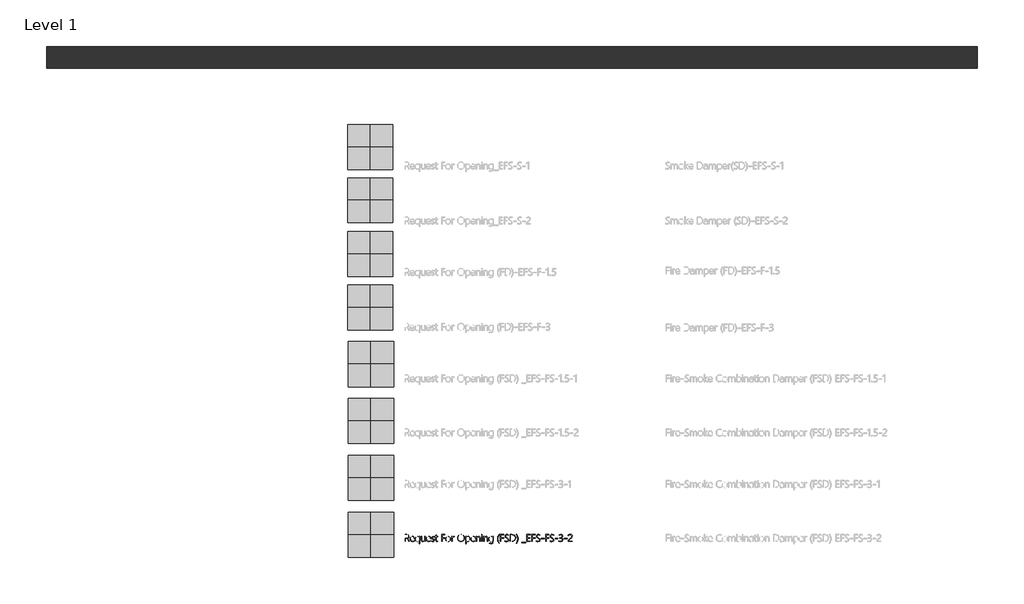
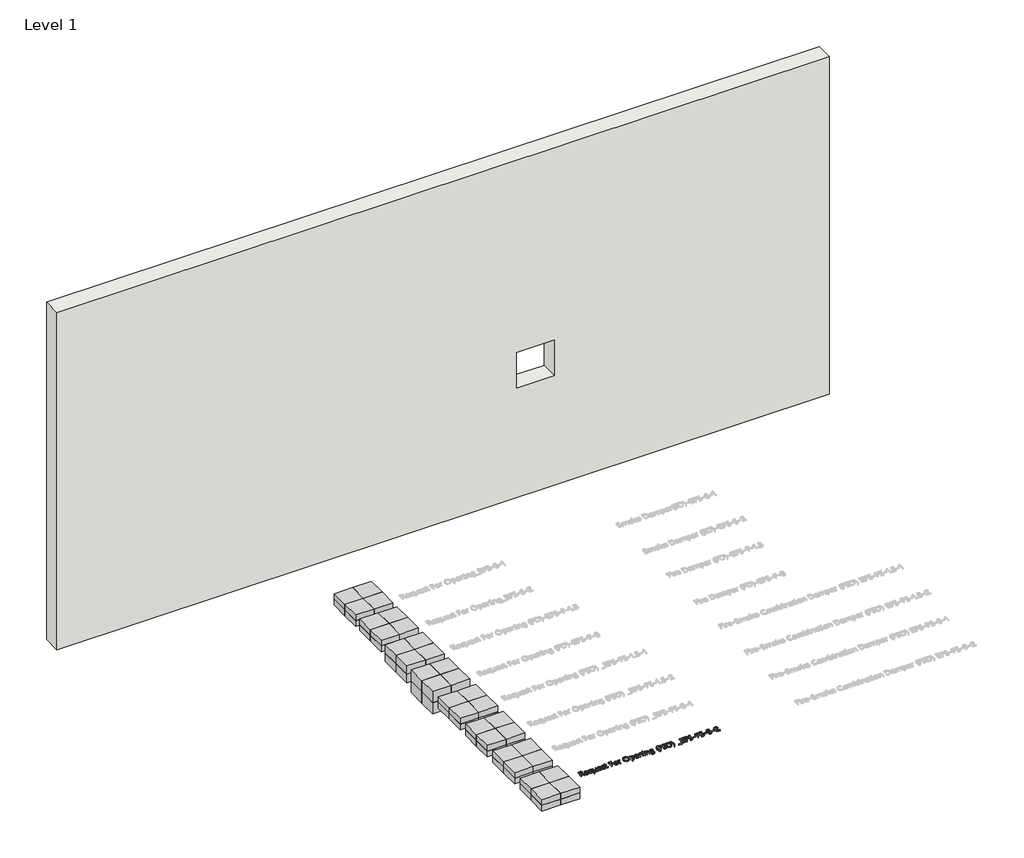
# One storey, part 1 of 13: 9 proxies, 1 wall.
"""IFC4 building model written with IfcOpenShell, lengths in millimetres."""

from ifc_helpers import new_model, si_unit, frame, origin, origin_with_axes, place, context, project, spatial, polyline, outline, extrude, transform, mapped, element, save
from components import mechanical_equipment_000f9c02, efs_fire_damper_1758a5b7, efs_fire_damper_2e3d3fd8, efs_smoke_damper_6f20081f

model = new_model("IFC4")

# Units and contexts
model_context = context("Model", 3, world=origin())
ifc_project = project(units=[si_unit("LENGTHUNIT", "METRE", prefix="MILLI")], contexts=[model_context])

# Site, building, storey
site = spatial("IfcSite", under=ifc_project)
building = spatial("IfcBuilding", under=site)
storey = spatial("IfcBuildingStorey", under=building, Name="Level 1", Elevation=0.0)

# Proxies
placement = place(None, origin())
mechanical_equipment_shape = mechanical_equipment_000f9c02(model_context)
element("IfcBuildingElementProxy", 1, Name="EFS_Fire & Smoke Combination Damper  : Fire Smoke Damper (FSD) _EFS-FS-1.5-1", ObjectType="EFS_Fire & Smoke Combination Damper  : Fire Smoke Damper (FSD) _EFS-FS-1.5-1", at=placement, inside=storey, context=model_context, shape_type="MappedRepresentation", body=[
    mapped(mechanical_equipment_shape, transform((-15623.4818522, 6476.2134931, 0.0), x_axis=(1.0, 0.0, 0.0), y_axis=(0.0, 1.0, 0.0), z_axis=(0.0, 0.0, 1.0))),
])
element("IfcBuildingElementProxy", 2, Name="EFS_Fire & Smoke Combination Damper  : Fire Smoke Damper (FSD)_EFS-FS-1.5-2", ObjectType="EFS_Fire & Smoke Combination Damper  : Fire Smoke Damper (FSD)_EFS-FS-1.5-2", at=placement, inside=storey, context=model_context, shape_type="MappedRepresentation", body=[
    mapped(mechanical_equipment_shape, transform((-15623.4818522, 5670.9639308, 0.0), x_axis=(1.0, 0.0, 0.0), y_axis=(0.0, 1.0, 0.0), z_axis=(0.0, 0.0, 1.0))),
])
element("IfcBuildingElementProxy", 3, Name="EFS_Fire & Smoke Combination Damper  : Fire Smoke Damper (FSD)_EFS-FS-3-1", ObjectType="EFS_Fire & Smoke Combination Damper  : Fire Smoke Damper (FSD)_EFS-FS-3-1", at=placement, inside=storey, context=model_context, shape_type="MappedRepresentation", body=[
    mapped(mechanical_equipment_shape, transform((-15623.4818522, 4862.7143684, 0.0), x_axis=(1.0, 0.0, 0.0), y_axis=(0.0, 1.0, 0.0), z_axis=(0.0, 0.0, 1.0))),
])
element("IfcBuildingElementProxy", 4, Name="EFS_Fire & Smoke Combination Damper  : Fire Smoke Damper (FSD)_EFS-FS-3-2", ObjectType="EFS_Fire & Smoke Combination Damper  : Fire Smoke Damper (FSD)_EFS-FS-3-2", at=placement, inside=storey, context=model_context, shape_type="MappedRepresentation", body=[
    mapped(mechanical_equipment_shape, transform((-15623.4818522, 4054.464806, 0.0), x_axis=(1.0, 0.0, 0.0), y_axis=(0.0, 1.0, 0.0), z_axis=(0.0, 0.0, 1.0))),
])
element("IfcBuildingElementProxy", 5, Name="24\" Arial", ObjectType="24\" Arial", at=placement, inside=storey, context=model_context, shape_type="SweptSolid", body=[
    extrude(outline(polyline([(-15088.6743908, 3959.1777679), (-15102.0044774, 3988.4563509), (-15110.2316402, 4000.6408831), (-15120.5713837, 4003.7502449), (-15132.9790759, 4003.7502449), (-15132.9790759, 3959.1777679), (-15139.8821565, 3959.1777679), (-15139.8821565, 4059.1831719), (-15112.121061, 4059.1831719), (-15100.2973039, 4057.3941731), (-15091.307678, 4052.0271767), (-15085.6282578, 4043.7367853), (-15083.7351177, 4033.1776012), (-15085.2860792, 4023.2432649), (-15089.9389638, 4015.1016467), (-15097.3813475, 4009.1469959), (-15107.3008065, 4005.7735616), (-15095.7262447, 3991.0450061), (-15080.8786706, 3959.1777679), (-15088.6743908, 3959.1777679)]), holes=[polyline([(-15132.9790759, 4052.8454298), (-15132.9790759, 4010.0284776), (-15115.7511292, 4010.0284776), (-15105.4783337, 4011.5273685), (-15097.5710334, 4016.0240411), (-15092.527619, 4023.1316849), (-15090.8464808, 4032.4634894), (-15092.3639684, 4040.9807601), (-15096.916431, 4047.4300821), (-15104.2955861, 4051.4915929), (-15114.293151, 4052.8454298), (-15132.9790759, 4052.8454298)])]), origin_with_axes(), (0.0, 0.0, 1.0), 20.0),
    extrude(outline(polyline([(-15059.7528637, 3994.615565), (-15058.0531289, 3981.493761), (-15052.9539245, 3971.5854601), (-15044.8941316, 3965.359298), (-15034.3126315, 3963.2839106), (-15022.4405231, 3965.5006326), (-15010.8659614, 3972.1507985), (-15010.8659614, 3965.3072273), (-15022.6041738, 3959.3934891), (-15035.6218364, 3957.4222431), (-15048.1039153, 3959.8993183), (-15057.9378296, 3967.330544), (-15064.3202036, 3979.277039), (-15066.4476617, 3995.2999221), (-15064.223501, 4009.6937377), (-15057.551019, 4021.632794), (-15047.3228555, 4029.6665516), (-15034.4316501, 4032.3444708), (-15022.6748411, 4030.0050108), (-15014.0050777, 4022.986631), (-15008.6603974, 4011.9290564), (-15006.8788373, 3997.4720121), (-15006.8788373, 3994.615565), (-15059.7528637, 3994.615565)]), holes=[polyline([(-15013.5736352, 4000.4772325), (-15015.284528, 4011.4269465), (-15019.5245667, 4019.639232), (-15026.07803, 4024.7719104), (-15034.7291967, 4026.4828032), (-15043.8973506, 4024.7979457), (-15051.347173, 4019.7433733), (-15056.676976, 4011.5571231), (-15059.4850718, 4000.4772325), (-15013.5736352, 4000.4772325)])]), origin_with_axes(), (0.0, 0.0, 1.0), 20.0),
    extrude(outline(polyline([(-14938.2348423, 3926.3286259), (-14938.2348423, 3972.2995718), (-14948.946519, 3961.1415753), (-14964.3891863, 3957.4222431), (-14976.4695772, 3959.8807216), (-14985.9315583, 3967.2561574), (-14992.0461405, 3978.8046838), (-14994.0843345, 3993.7824346), (-14991.7671906, 4009.7048957), (-14984.8157587, 4021.9452179), (-14974.2863292, 4029.7446576), (-14961.2351926, 4032.3444708), (-14947.5629274, 4029.0119491), (-14938.5026342, 4019.0143842), (-14938.2348423, 4030.588946), (-14931.8078363, 4030.588946), (-14931.8078363, 3926.3286259), (-14938.2348423, 3926.3286259)]), holes=[polyline([(-14938.2348423, 4001.9947201), (-14939.7858038, 4011.7319317), (-14944.4386884, 4019.5797227), (-14951.8438788, 4024.7570331), (-14961.6517578, 4026.4828032), (-14971.8055347, 4024.3479065), (-14980.0698908, 4017.9432165), (-14985.5596251, 4007.7001756), (-14987.3895366, 3994.0502265), (-14985.7604691, 3981.2222498), (-14980.8732666, 3971.4813188), (-14973.3899702, 3965.3332626), (-14963.9726211, 3963.2839106), (-14952.9448011, 3965.203086), (-14944.8552536, 3970.9606122), (-14939.8899451, 3979.4927603), (-14938.2348423, 3989.7358012), (-14938.2348423, 4001.9947201)])]), origin_with_axes(), (0.0, 0.0, 1.0), 20.0),
    extrude(outline(polyline([(-14861.7951271, 3959.1777679), (-14861.7951271, 3972.1507985), (-14871.5620934, 3961.1043819), (-14885.0930239, 3957.4222431), (-14896.1710549, 3959.4158051), (-14904.0839341, 3965.3964913), (-14908.8316616, 3975.3643016), (-14910.4142375, 3989.3192359), (-14910.4142375, 4030.588946), (-14903.9277221, 4030.588946), (-14903.9277221, 3990.8962328), (-14902.7338165, 3978.3881186), (-14899.1520996, 3969.8448126), (-14893.0040435, 3964.9241361), (-14884.1111202, 3963.2839106), (-14875.0917397, 3965.113822), (-14867.9692185, 3970.6035564), (-14863.3386499, 3979.1505817), (-14861.7951271, 3990.1523664), (-14861.7951271, 4030.588946), (-14855.3978757, 4030.588946), (-14855.3978757, 3959.1777679), (-14861.7951271, 3959.1777679)])), origin_with_axes(), (0.0, 0.0, 1.0), 20.0),
    extrude(outline(polyline([(-14831.2370938, 3994.615565), (-14829.537359, 3981.493761), (-14824.4381545, 3971.5854601), (-14816.3783617, 3965.359298), (-14805.7968616, 3963.2839106), (-14793.9247532, 3965.5006326), (-14782.3501914, 3972.1507985), (-14782.3501914, 3965.3072273), (-14794.0884038, 3959.3934891), (-14807.1060665, 3957.4222431), (-14819.5881453, 3959.8993183), (-14829.4220597, 3967.330544), (-14835.8044337, 3979.277039), (-14837.9318917, 3995.2999221), (-14835.7077311, 4009.6937377), (-14829.0352491, 4021.632794), (-14818.8070856, 4029.6665516), (-14805.9158802, 4032.3444708), (-14794.1590711, 4030.0050108), (-14785.4893078, 4022.986631), (-14780.1446274, 4011.9290564), (-14778.3630673, 3997.4720121), (-14778.3630673, 3994.615565), (-14831.2370938, 3994.615565)]), holes=[polyline([(-14785.0578653, 4000.4772325), (-14786.7687581, 4011.4269465), (-14791.0087968, 4019.639232), (-14797.5622601, 4024.7719104), (-14806.2134268, 4026.4828032), (-14815.3815806, 4024.7979457), (-14822.831403, 4019.7433733), (-14828.161206, 4011.5571231), (-14830.9693018, 4000.4772325), (-14785.0578653, 4000.4772325)])]), origin_with_axes(), (0.0, 0.0, 1.0), 20.0),
    extrude(outline(polyline([(-14764.1105863, 3962.3020069), (-14764.1105863, 3970.0679725), (-14755.318085, 3965.0989447), (-14746.4065651, 3963.2839106), (-14733.798029, 3966.7205735), (-14729.5951836, 3977.0305624), (-14733.2847611, 3985.1089519), (-14745.2758881, 3992.0269098), (-14759.6771424, 4001.265731), (-14763.8130398, 4012.8849247), (-14762.1504983, 4020.7661896), (-14757.1628738, 4026.9737551), (-14740.7531802, 4032.3444708), (-14724.9832117, 4028.5656293), (-14724.9832117, 4021.3054928), (-14741.4375373, 4026.4828032), (-14752.8038165, 4022.8229803), (-14757.1182418, 4013.3014899), (-14754.410568, 4005.0296951), (-14742.419441, 3997.739804), (-14727.080915, 3988.4265962), (-14722.9003856, 3977.0305624), (-14724.4959792, 3969.2608774), (-14729.2827597, 3962.9714867), (-14736.8739167, 3958.809554), (-14746.8826396, 3957.4222431), (-14764.1105863, 3962.3020069)])), origin_with_axes(), (0.0, 0.0, 1.0), 20.0),
    extrude(outline(polyline([(-14676.9294397, 3960.1596716), (-14686.3616662, 3957.779299), (-14698.2337745, 3962.5251668), (-14702.191144, 3976.7627705), (-14702.191144, 4024.7272784), (-14715.0154014, 4024.7272784), (-14715.0154014, 4030.588946), (-14702.191144, 4030.588946), (-14702.191144, 4049.1260976), (-14698.977641, 4050.2567746), (-14695.764138, 4051.2981876), (-14695.764138, 4030.588946), (-14676.9294397, 4030.588946), (-14676.9294397, 4024.7272784), (-14695.764138, 4024.7272784), (-14695.764138, 3977.5959009), (-14693.4283973, 3966.8842242), (-14685.5285358, 3963.5814572), (-14676.9294397, 3966.1403577), (-14676.9294397, 3960.1596716)])), origin_with_axes(), (0.0, 0.0, 1.0), 20.0),
    extrude(outline(polyline([(-14615.0099974, 4052.8454298), (-14615.0099974, 4012.0517943), (-14578.0547127, 4012.0517943), (-14578.0547127, 4005.7735616), (-14615.0099974, 4005.7735616), (-14615.0099974, 3959.1777679), (-14621.9130779, 3959.1777679), (-14621.9130779, 4059.1831719), (-14575.1685109, 4059.1831719), (-14575.1685109, 4052.8454298), (-14615.0099974, 4052.8454298)])), origin_with_axes(), (0.0, 0.0, 1.0), 20.0),
    extrude(outline(polyline([(-14527.9776241, 3957.4222431), (-14541.9697518, 3959.9960209), (-14552.7037445, 3967.7173546), (-14559.5324384, 3979.5522696), (-14561.8086697, 3994.4667917), (-14559.4282971, 4010.3223048), (-14552.2871793, 4022.3022738), (-14541.2630787, 4029.8339215), (-14527.2337576, 4032.3444708), (-14513.5503345, 4029.8487989), (-14503.087853, 4022.3617832), (-14496.4488451, 4010.4636395), (-14494.2358424, 3994.7345836), (-14496.4934771, 3979.6564109), (-14503.266381, 3967.7471092), (-14513.959461, 3960.0034596), (-14527.9776241, 3957.4222431)]), holes=[polyline([(-14527.5015495, 4026.4828032), (-14538.8380741, 4024.3553452), (-14547.615698, 4017.9729712), (-14553.2393283, 4007.8043169), (-14555.1138717, 3994.3180184), (-14553.2839603, 3981.6797276), (-14547.794226, 3971.7937427), (-14539.128182, 3965.4113686), (-14527.7693415, 3963.2839106), (-14516.3621496, 3965.3778946), (-14507.9081076, 3971.6598467), (-14502.6750072, 3981.6536923), (-14500.9306404, 3994.8833569), (-14502.6638492, 4008.3733748), (-14507.8634756, 4018.3151497), (-14516.2394117, 4024.4408898), (-14527.5015495, 4026.4828032)])]), origin_with_axes(), (0.0, 0.0, 1.0), 20.0),
    extrude(outline(polyline([(-14442.9983221, 4023.894148), (-14450.5262505, 4026.1852566), (-14458.2736194, 4024.005728), (-14464.6745901, 4017.467142), (-14468.9704188, 4006.9191159), (-14470.4023617, 3992.7112669), (-14470.4023617, 3959.1777679), (-14476.6805945, 3959.1777679), (-14476.6805945, 4030.588946), (-14470.4023617, 4030.588946), (-14470.4023617, 4014.7594681), (-14462.3686042, 4027.4498296), (-14450.1096853, 4031.9874149), (-14442.9983221, 4030.7377193), (-14442.9983221, 4023.894148)])), origin_with_axes(), (0.0, 0.0, 1.0), 20.0),
    extrude(outline(polyline([(-14346.5337224, 3957.4222431), (-14365.5729839, 3960.9444506), (-14380.320136, 3971.5110734), (-14389.7709591, 3987.7087651), (-14392.9212335, 4008.1241795), (-14389.6854145, 4029.6665516), (-14379.9779574, 4046.4481784), (-14364.6766248, 4057.2491191), (-14344.6591789, 4060.8494327), (-14326.3563452, 4057.3904537), (-14311.9141783, 4047.0135169), (-14302.5303032, 4031.0203885), (-14299.4023448, 4010.7128347), (-14302.6084092, 3988.5418955), (-14312.2266022, 3971.6598467), (-14327.2155109, 3960.981644), (-14346.5337224, 3957.4222431)]), holes=[polyline([(-14345.8196106, 4054.5711999), (-14361.712317, 4051.4172062), (-14374.5179778, 4041.9552251), (-14382.9645812, 4027.3828816), (-14385.7801157, 4008.8978006), (-14383.1133545, 3990.3532103), (-14375.1130709, 3976.018904), (-14362.6719047, 3966.8470308), (-14346.6824956, 3963.7897398), (-14330.0570807, 3966.8135568), (-14317.3146486, 3975.8850081), (-14309.2139431, 3990.3643683), (-14306.513708, 4009.6119124), (-14309.1544338, 4028.4726459), (-14317.0766114, 4042.6842143), (-14329.5438129, 4051.5994535), (-14345.8196106, 4054.5711999)])]), origin_with_axes(), (0.0, 0.0, 1.0), 20.0),
    extrude(outline(polyline([(-14273.843094, 3971.8830066), (-14274.1108859, 3926.3286259), (-14280.5378919, 3926.3286259), (-14280.5378919, 4030.588946), (-14274.1108859, 4030.588946), (-14274.1108859, 4015.8603905), (-14262.848748, 4028.0449227), (-14247.1234115, 4032.3444708), (-14235.0169852, 4029.9975721), (-14225.8934633, 4022.9568763), (-14220.1694111, 4011.891863), (-14218.2613937, 3997.4720121), (-14220.448361, 3981.2520044), (-14227.009263, 3968.4760983), (-14237.1630399, 3960.1857069), (-14250.1286319, 3957.4222431), (-14264.0761276, 3961.037434), (-14273.843094, 3971.8830066)]), holes=[polyline([(-14274.1108859, 3998.4539158), (-14274.1108859, 3989.4382546), (-14272.4185897, 3979.455567), (-14267.3417013, 3970.9903669), (-14259.512507, 3965.2105247), (-14249.5632934, 3963.2839106), (-14239.6438345, 3965.6308092), (-14231.7848855, 3972.6715051), (-14226.6633651, 3983.5282357), (-14224.9561916, 3997.3232388), (-14226.5257498, 4009.3366818), (-14231.2344244, 4018.597819), (-14238.5540701, 4024.5115572), (-14247.9565419, 4026.4828032), (-14259.0364325, 4024.3888192), (-14267.282192, 4018.1068671), (-14272.4037124, 4009.0056612), (-14274.1108859, 3998.4539158)])]), origin_with_axes(), (0.0, 0.0, 1.0), 20.0),
    extrude(outline(polyline([(-14199.0101303, 3994.615565), (-14197.3103954, 3981.493761), (-14192.211191, 3971.5854601), (-14184.1513981, 3965.359298), (-14173.5698981, 3963.2839106), (-14161.6977897, 3965.5006326), (-14150.1232279, 3972.1507985), (-14150.1232279, 3965.3072273), (-14161.8614403, 3959.3934891), (-14174.879103, 3957.4222431), (-14187.3611818, 3959.8993183), (-14197.1950961, 3967.330544), (-14203.5774702, 3979.277039), (-14205.7049282, 3995.2999221), (-14203.4807675, 4009.6937377), (-14196.8082856, 4021.632794), (-14186.5801221, 4029.6665516), (-14173.6889167, 4032.3444708), (-14161.9321076, 4030.0050108), (-14153.2623443, 4022.986631), (-14147.9176639, 4011.9290564), (-14146.1361038, 3997.4720121), (-14146.1361038, 3994.615565), (-14199.0101303, 3994.615565)]), holes=[polyline([(-14152.8309017, 4000.4772325), (-14154.5417946, 4011.4269465), (-14158.7818333, 4019.639232), (-14165.3352966, 4024.7719104), (-14173.9864633, 4026.4828032), (-14183.1546171, 4024.7979457), (-14190.6044395, 4019.7433733), (-14195.9342425, 4011.5571231), (-14198.7423383, 4000.4772325), (-14152.8309017, 4000.4772325)])]), origin_with_axes(), (0.0, 0.0, 1.0), 20.0),
    extrude(outline(polyline([(-14079.6344442, 3959.1777679), (-14079.6344442, 4000.7450244), (-14084.2761708, 4020.0483585), (-14090.078329, 4024.874192), (-14098.2013505, 4026.4828032), (-14107.6001029, 4024.5896631), (-14115.146628, 4018.9102429), (-14120.1119364, 4010.4413235), (-14121.7670393, 4000.179686), (-14121.7670393, 3959.1777679), (-14128.1940453, 3959.1777679), (-14128.1940453, 4030.588946), (-14121.7670393, 4030.588946), (-14121.7670393, 4017.6159153), (-14111.4793664, 4028.6623319), (-14097.0706735, 4032.3444708), (-14086.8573873, 4030.4178567), (-14079.3666523, 4024.6380145), (-14074.7695577, 4015.2801747), (-14073.2371928, 4002.6195679), (-14073.2371928, 3959.1777679), (-14079.6344442, 3959.1777679)])), origin_with_axes(), (0.0, 0.0, 1.0), 20.0),
    extrude(outline(polyline([(-14048.8681283, 4048.5905138), (-14052.5577058, 4050.1228786), (-14054.1644573, 4054.0356161), (-14052.5279512, 4057.7549483), (-14048.8681283, 4059.1831719), (-14045.0595321, 4057.784703), (-14043.4230259, 4054.0356161), (-14045.0297775, 4050.1972653), (-14048.8681283, 4048.5905138)])), origin_with_axes(), (0.0, 0.0, 1.0), 20.0),
    extrude(outline(polyline([(-14052.022122, 3959.1777679), (-14052.022122, 4030.588946), (-14045.595116, 4030.588946), (-14045.595116, 3959.1777679), (-14052.022122, 3959.1777679)])), origin_with_axes(), (0.0, 0.0, 1.0), 20.0),
    extrude(outline(polyline([(-13974.8980496, 3959.1777679), (-13974.8980496, 4000.7450244), (-13979.5397762, 4020.0483585), (-13985.3419344, 4024.874192), (-13993.4649559, 4026.4828032), (-14002.8637084, 4024.5896631), (-14010.4102334, 4018.9102429), (-14015.3755419, 4010.4413235), (-14017.0306447, 4000.179686), (-14017.0306447, 3959.1777679), (-14023.4576507, 3959.1777679), (-14023.4576507, 4030.588946), (-14017.0306447, 4030.588946), (-14017.0306447, 4017.6159153), (-14006.7429719, 4028.6623319), (-13992.3342789, 4032.3444708), (-13982.1209927, 4030.4178567), (-13974.6302577, 4024.6380145), (-13970.0331631, 4015.2801747), (-13968.5007983, 4002.6195679), (-13968.5007983, 3959.1777679), (-13974.8980496, 3959.1777679)])), origin_with_axes(), (0.0, 0.0, 1.0), 20.0),
    extrude(outline(polyline([(-13890.1567849, 3964.4740969), (-13892.3549103, 3947.0304289), (-13898.9492862, 3934.9872313), (-13910.1779501, 3927.9800094), (-13926.2789392, 3925.6442688), (-13947.5535193, 3931.0596165), (-13947.5535193, 3937.7544144), (-13926.1301659, 3931.5059363), (-13913.2036269, 3933.4585857), (-13903.9703847, 3939.3165339), (-13898.4304394, 3949.079781), (-13896.583791, 3962.7483268), (-13896.583791, 3972.0020253), (-13907.5111889, 3961.0671886), (-13922.5893617, 3957.4222431), (-13934.5581727, 3959.8137737), (-13944.1019791, 3966.9883655), (-13950.3504571, 3978.4327506), (-13952.4332832, 3993.6336613), (-13950.1830872, 4009.1469959), (-13943.4324993, 4021.5286527), (-13933.0072111, 4029.6405163), (-13919.7329145, 4032.3444708), (-13906.1275974, 4029.0788971), (-13896.8515829, 4019.2821761), (-13896.583791, 4030.588946), (-13890.1567849, 4030.588946), (-13890.1567849, 3964.4740969)]), holes=[polyline([(-13896.583791, 4003.1849064), (-13898.1793845, 4012.0294783), (-13902.966165, 4019.5797227), (-13910.3118461, 4024.7570331), (-13919.5841412, 4026.4828032), (-13930.217712, 4024.2660812), (-13938.5527354, 4017.6159153), (-13943.9420478, 4007.3282424), (-13945.7384852, 3994.1989998), (-13944.0908211, 3981.1664598), (-13939.1478286, 3971.4069321), (-13931.5046009, 3965.314666), (-13921.7562312, 3963.2839106), (-13911.4127684, 3965.1510154), (-13903.4124849, 3970.7523296), (-13898.2909644, 3979.0538791), (-13896.583791, 3989.0216894), (-13896.583791, 4003.1849064)])]), origin_with_axes(), (0.0, 0.0, 1.0), 20.0),
    extrude(outline(polyline([(-13807.1412904, 3936.4452095), (-13822.9856455, 3963.9757064), (-13828.2670972, 3997.1744655), (-13822.9186975, 4031.5113403), (-13806.8734985, 4059.1831719), (-13800.0299272, 4059.1831719), (-13816.4098662, 4031.1617231), (-13821.8698459, 3997.3232388), (-13816.4842529, 3964.7716435), (-13800.3274738, 3936.4452095), (-13807.1412904, 3936.4452095)])), origin_with_axes(), (0.0, 0.0, 1.0), 20.0),
    extrude(outline(polyline([(-13779.023139, 4052.8454298), (-13779.023139, 4012.0517943), (-13742.0678543, 4012.0517943), (-13742.0678543, 4005.7735616), (-13779.023139, 4005.7735616), (-13779.023139, 3959.1777679), (-13785.9262196, 3959.1777679), (-13785.9262196, 4059.1831719), (-13739.1816526, 4059.1831719), (-13739.1816526, 4052.8454298), (-13779.023139, 4052.8454298)])), origin_with_axes(), (0.0, 0.0, 1.0), 20.0),
    extrude(outline(polyline([(-13722.4000257, 3962.7483268), (-13722.4000257, 3970.6035564), (-13711.5916463, 3965.4931939), (-13700.649371, 3963.7897398), (-13682.8560858, 3968.6248716), (-13678.3036232, 3974.4307492), (-13676.7861357, 3982.1781181), (-13680.8774011, 3994.4221597), (-13698.566545, 4006.8744839), (-13717.8029311, 4021.7071807), (-13721.8346872, 4035.4687098), (-13719.7778965, 4045.2617115), (-13713.6075244, 4053.4554003), (-13704.007928, 4059.0009246), (-13691.6634645, 4060.8494327), (-13673.8106699, 4057.8442123), (-13673.8106699, 4050.6138305), (-13692.5561042, 4054.5711999), (-13708.6980059, 4049.4087669), (-13713.1723625, 4043.5508187), (-13714.6638147, 4036.3018402), (-13710.5874267, 4024.1024306), (-13692.9726694, 4011.7542477), (-13674.3164991, 3997.6356627), (-13669.6747725, 3983.4575684), (-13671.6720539, 3973.0062449), (-13677.6638981, 3964.6823795), (-13687.3006878, 3959.2372772), (-13700.2328058, 3957.4222431), (-13712.1197915, 3959.0289946), (-13722.4000257, 3962.7483268)])), origin_with_axes(), (0.0, 0.0, 1.0), 20.0),
    extrude(outline(polyline([(-13648.8167576, 3959.1777679), (-13648.8167576, 4059.1831719), (-13623.7633359, 4059.1831719), (-13601.863908, 4056.0812488), (-13585.9154115, 4046.7754797), (-13576.1856385, 4031.518779), (-13572.9423809, 4010.5640614), (-13576.4199565, 3989.8585391), (-13586.8526833, 3973.4451261), (-13603.4074308, 3962.7446074), (-13625.2510688, 3959.1777679), (-13648.8167576, 3959.1777679)]), holes=[polyline([(-13641.913677, 4052.8454298), (-13641.913677, 3965.4560006), (-13626.2032179, 3965.4560006), (-13606.5502665, 3968.3422024), (-13592.044871, 3977.0008077), (-13583.0961577, 3991.0970767), (-13580.1132533, 4010.2962695), (-13582.9064718, 4028.9115271), (-13591.2861272, 4042.2081397), (-13605.2522196, 4050.1861073), (-13624.804749, 4052.8454298), (-13641.913677, 4052.8454298)])]), origin_with_axes(), (0.0, 0.0, 1.0), 20.0),
    extrude(outline(polyline([(-13555.8036981, 3936.4452095), (-13562.6472693, 3936.4452095), (-13546.4681743, 3964.7716435), (-13541.0751426, 3997.3232388), (-13546.5351223, 4031.1617231), (-13562.9150613, 4059.1831719), (-13556.07149, 4059.1831719), (-13540.0262909, 4031.4369537), (-13534.6778912, 3997.1744655), (-13539.959343, 3963.9013197), (-13555.8036981, 3936.4452095)])), origin_with_axes(), (0.0, 0.0, 1.0), 20.0),
    extrude(outline(polyline([(-13484.5412933, 3940.4918429), (-13484.5412933, 3946.7700757), (-13425.2700155, 3946.7700757), (-13425.2700155, 3940.4918429), (-13484.5412933, 3940.4918429)])), origin_with_axes(), (0.0, 0.0, 1.0), 20.0),
    extrude(outline(polyline([(-13412.6837953, 3959.1777679), (-13412.6837953, 4059.1831719), (-13365.9392283, 4059.1831719), (-13365.9392283, 4052.8454298), (-13405.7807148, 4052.8454298), (-13405.7807148, 4012.7361514), (-13368.8254301, 4012.7361514), (-13368.8254301, 4006.4579187), (-13405.7807148, 4006.4579187), (-13405.7807148, 3965.4560006), (-13363.6481197, 3965.4560006), (-13363.6481197, 3959.1777679), (-13412.6837953, 3959.1777679)])), origin_with_axes(), (0.0, 0.0, 1.0), 20.0),
    extrude(outline(polyline([(-13333.4173876, 4052.8454298), (-13333.4173876, 4012.0517943), (-13296.4621029, 4012.0517943), (-13296.4621029, 4005.7735616), (-13333.4173876, 4005.7735616), (-13333.4173876, 3959.1777679), (-13340.3204682, 3959.1777679), (-13340.3204682, 4059.1831719), (-13293.5759012, 4059.1831719), (-13293.5759012, 4052.8454298), (-13333.4173876, 4052.8454298)])), origin_with_axes(), (0.0, 0.0, 1.0), 20.0),
    extrude(outline(polyline([(-13276.7942743, 3962.7483268), (-13276.7942743, 3970.6035564), (-13265.985895, 3965.4931939), (-13255.0436196, 3963.7897398), (-13237.2503344, 3968.6248716), (-13232.6978718, 3974.4307492), (-13231.1803843, 3982.1781181), (-13235.2716497, 3994.4221597), (-13252.9607936, 4006.8744839), (-13272.1971797, 4021.7071807), (-13276.2289358, 4035.4687098), (-13274.1721451, 4045.2617115), (-13268.001773, 4053.4554003), (-13258.4021766, 4059.0009246), (-13246.0577131, 4060.8494327), (-13228.2049185, 4057.8442123), (-13228.2049185, 4050.6138305), (-13246.9503528, 4054.5711999), (-13263.0922545, 4049.4087669), (-13267.5666111, 4043.5508187), (-13269.0580633, 4036.3018402), (-13264.9816753, 4024.1024306), (-13247.366918, 4011.7542477), (-13228.7107477, 3997.6356627), (-13224.0690211, 3983.4575684), (-13226.0663025, 3973.0062449), (-13232.0581467, 3964.6823795), (-13241.6949364, 3959.2372772), (-13254.6270544, 3957.4222431), (-13266.5140401, 3959.0289946), (-13276.7942743, 3962.7483268)])), origin_with_axes(), (0.0, 0.0, 1.0), 20.0),
    extrude(outline(polyline([(-13205.91868, 3997.8885773), (-13205.91868, 4004.1668101), (-13167.7732091, 4004.1668101), (-13167.7732091, 3997.8885773), (-13205.91868, 3997.8885773)])), origin_with_axes(), (0.0, 0.0, 1.0), 20.0),
    extrude(outline(polyline([(-13139.1789832, 4052.8454298), (-13139.1789832, 4012.0517943), (-13102.2236985, 4012.0517943), (-13102.2236985, 4005.7735616), (-13139.1789832, 4005.7735616), (-13139.1789832, 3959.1777679), (-13146.0820637, 3959.1777679), (-13146.0820637, 4059.1831719), (-13099.3374967, 4059.1831719), (-13099.3374967, 4052.8454298), (-13139.1789832, 4052.8454298)])), origin_with_axes(), (0.0, 0.0, 1.0), 20.0),
    extrude(outline(polyline([(-13082.5558699, 3962.7483268), (-13082.5558699, 3970.6035564), (-13071.7474905, 3965.4931939), (-13060.8052152, 3963.7897398), (-13043.01193, 3968.6248716), (-13038.4594674, 3974.4307492), (-13036.9419798, 3982.1781181), (-13041.0332453, 3994.4221597), (-13058.7223892, 4006.8744839), (-13077.9587753, 4021.7071807), (-13081.9905314, 4035.4687098), (-13079.9337407, 4045.2617115), (-13073.7633685, 4053.4554003), (-13064.1637722, 4059.0009246), (-13051.8193086, 4060.8494327), (-13033.9665141, 4057.8442123), (-13033.9665141, 4050.6138305), (-13052.7119483, 4054.5711999), (-13068.8538501, 4049.4087669), (-13073.3282067, 4043.5508187), (-13074.8196589, 4036.3018402), (-13070.7432708, 4024.1024306), (-13053.1285135, 4011.7542477), (-13034.4723433, 3997.6356627), (-13029.8306167, 3983.4575684), (-13031.8278981, 3973.0062449), (-13037.8197422, 3964.6823795), (-13047.4565319, 3959.2372772), (-13060.38865, 3957.4222431), (-13072.2756357, 3959.0289946), (-13082.5558699, 3962.7483268)])), origin_with_axes(), (0.0, 0.0, 1.0), 20.0),
    extrude(outline(polyline([(-13011.6802756, 3997.8885773), (-13011.6802756, 4004.1668101), (-12973.5348046, 4004.1668101), (-12973.5348046, 3997.8885773), (-13011.6802756, 3997.8885773)])), origin_with_axes(), (0.0, 0.0, 1.0), 20.0),
    extrude(outline(polyline([(-12956.6341591, 3962.7483268), (-12956.6341591, 3970.0679725), (-12935.0917871, 3963.2839106), (-12924.342917, 3964.8274335), (-12916.1975795, 3969.458002), (-12911.0649011, 3976.5805232), (-12909.3540083, 3985.5999038), (-12911.3178157, 3995.3519928), (-12917.2092379, 4002.4112853), (-12926.7232896, 4006.695956), (-12939.5549857, 4008.1241795), (-12947.2316873, 4008.1241795), (-12947.2316873, 4013.9858471), (-12940.3881161, 4013.9858471), (-12928.5941137, 4015.406632), (-12919.9912984, 4019.6689866), (-12914.735882, 4026.5274352), (-12912.9840765, 4035.7365017), (-12918.0721229, 4049.8699641), (-12924.3354784, 4053.7083149), (-12932.9494517, 4054.9877652), (-12952.6767897, 4048.4417405), (-12952.6767897, 4055.2853117), (-12931.967548, 4060.8494327), (-12921.3302579, 4059.2464005), (-12913.1626045, 4054.437304), (-12907.962978, 4046.9800429), (-12906.2297692, 4037.4325172), (-12911.0946558, 4020.836857), (-12925.6893153, 4011.6352291), (-12916.2645275, 4008.8754846), (-12908.9374431, 4003.5717169), (-12904.2287685, 3995.9619632), (-12902.6592103, 3986.5818075), (-12904.928003, 3974.7357344), (-12911.7343809, 3965.4411233), (-12922.148511, 3959.4269631), (-12935.2405603, 3957.4222431), (-12956.6341591, 3962.7483268)])), origin_with_axes(), (0.0, 0.0, 1.0), 20.0),
    extrude(outline(polyline([(-12880.2837079, 3997.8885773), (-12880.2837079, 4004.1668101), (-12842.1382369, 4004.1668101), (-12842.1382369, 3997.8885773), (-12880.2837079, 3997.8885773)])), origin_with_axes(), (0.0, 0.0, 1.0), 20.0),
    extrude(outline(polyline([(-12826.576551, 3959.1777679), (-12826.576551, 3963.8492491), (-12825.8029299, 3972.2549398), (-12823.4671893, 3979.1282657), (-12819.5693291, 3985.0196879), (-12814.1242268, 3990.5242996), (-12807.072373, 3996.1776845), (-12798.4583996, 4002.4707946), (-12789.9931995, 4008.9721873), (-12783.1198737, 4015.8752678), (-12778.4930244, 4023.9982893), (-12776.7970089, 4034.1595049), (-12778.1657232, 4042.9371288), (-12782.2718659, 4049.5129082), (-12788.8476452, 4053.6190509), (-12797.6252692, 4054.9877652), (-12810.5387906, 4052.0569314), (-12822.6786909, 4043.9190325), (-12822.6786909, 4051.4469609), (-12810.330508, 4058.3351641), (-12796.5243469, 4060.8494327), (-12785.6341422, 4059.0343986), (-12777.3028381, 4053.8719655), (-12771.9767544, 4045.793576), (-12770.102211, 4035.2009179), (-12772.0808957, 4022.9568763), (-12777.481366, 4013.2568579), (-12785.4704916, 4005.2379777), (-12795.125878, 3997.9480866), (-12806.5516665, 3989.4084999), (-12814.1539815, 3982.1334862), (-12818.3791428, 3974.7989631), (-12819.6734704, 3966.0808484), (-12769.9534377, 3965.0394354), (-12769.9534377, 3959.1777679), (-12826.576551, 3959.1777679)])), origin_with_axes(), (0.0, 0.0, 1.0), 20.0),
])
efs_fire_damper_shape = efs_fire_damper_1758a5b7(model_context)
element("IfcBuildingElementProxy", 6, Name="EFS_Fire Damper : Fire Damper(FD)-EFS-F-1.5", ObjectType="EFS_Fire Damper : Fire Damper(FD)-EFS-F-1.5", at=placement, inside=storey, context=model_context, shape_type="MappedRepresentation", body=[
    mapped(efs_fire_damper_shape, transform((-15630.9818522, 8038.418814, 0.0), x_axis=(1.0, 0.0, 0.0), y_axis=(0.0, 1.0, 0.0), z_axis=(0.0, 0.0, 1.0))),
])
efs_fire_damper_2_shape = efs_fire_damper_2e3d3fd8(model_context)
element("IfcBuildingElementProxy", 7, Name="EFS_Fire Damper : Fire Damper(FD)-EFS-F-3", ObjectType="EFS_Fire Damper : Fire Damper(FD)-EFS-F-3", at=placement, inside=storey, context=model_context, shape_type="MappedRepresentation", body=[
    mapped(efs_fire_damper_2_shape, transform((-15630.9818522, 7281.4630555, 0.0), x_axis=(1.0, 0.0, 0.0), y_axis=(0.0, 1.0, 0.0), z_axis=(0.0, 0.0, 1.0))),
])
efs_smoke_damper_shape = efs_smoke_damper_6f20081f(model_context)
element("IfcBuildingElementProxy", 8, Name="EFS_Smoke Damper : Smoke Damper (SD)_EFS-S-1", ObjectType="EFS_Smoke Damper : Smoke Damper (SD)_EFS-S-1", at=placement, inside=storey, context=model_context, shape_type="MappedRepresentation", body=[
    mapped(efs_smoke_damper_shape, transform((-15630.9818522, 9558.418814, 0.0), x_axis=(1.0, 0.0, 0.0), y_axis=(0.0, 1.0, 0.0), z_axis=(0.0, 0.0, 1.0))),
])
element("IfcBuildingElementProxy", 9, Name="EFS_Smoke Damper : Smoke Damper (SD)_EFS-S-2", ObjectType="EFS_Smoke Damper : Smoke Damper (SD)_EFS-S-2", at=placement, inside=storey, context=model_context, shape_type="MappedRepresentation", body=[
    mapped(efs_smoke_damper_shape, transform((-15630.9818522, 8801.4630555, 0.0), x_axis=(1.0, 0.0, 0.0), y_axis=(0.0, 1.0, 0.0), z_axis=(0.0, 0.0, 1.0))),
])

# Wall
element("IfcWall", 10, ObjectType="Generic - 12\"", at=placement, inside=storey, context=model_context, shape_type="SweptSolid", body=[
    extrude(outline(polyline([(0.0, -20222.8083279), (0.0, -7022.8083279), (6096.0, -7022.8083279), (6096.0, -20222.8083279), (0.0, -20222.8083279)]), holes=[polyline([(2621.5, -12364.3083279), (2621.5, -11721.3083279), (1978.5, -11721.3083279), (1978.5, -12364.3083279), (2621.5, -12364.3083279)])]), frame((0.0, 10679.4385249, 0.0), z_axis=(0.0, 1.0, 0.0), x_axis=(0.0, 0.0, 1.0)), (0.0, 0.0, 1.0), 304.8),
])

save(model, "model.ifc")
